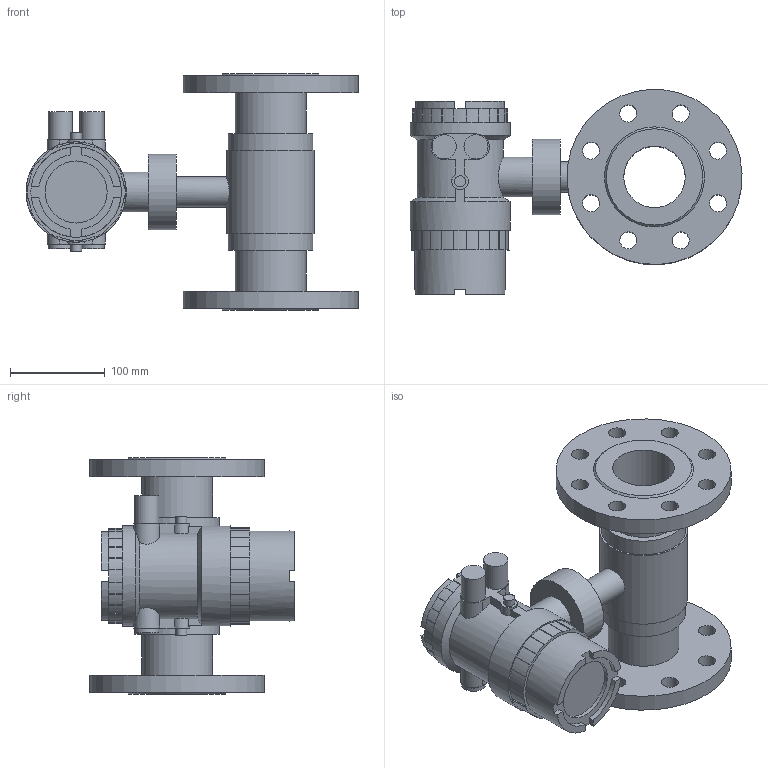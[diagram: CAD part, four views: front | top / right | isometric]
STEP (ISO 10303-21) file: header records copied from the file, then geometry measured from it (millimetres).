
FILE_DESCRIPTION( (''), '2;1');
FILE_NAME( 'QMKC_DN65.step', '2024-12-10T10:37:45+08:00', (''), (''), '', '', '');
FILE_SCHEMA (('AUTOMOTIVE_DESIGN { 1 0 10303 214 3 1 1 1 }'));
Length unit declared in the file: millimetre
Products named in the file (1): QMKC DN65
Bounding box: 350.66 x 216.41 x 250 mm (x, y, z)
Volume: 3063977.7 mm3; surface area: 354285.4 mm2
Topology: 1 solids, 1 shells, 223 faces, 594 edges, 398 vertices
Faces by surface type: plane 112, cylinder 105, cone 6
Full cylindrical faces by diameter (mm): 11.6 x2, 18 x16, 25.5 x4, 32 x1, 42 x1, 65 x1, 65.5 x1, 75 x2, 80 x1, 89 x2, 93 x1, 95.5 x1, 105.9 x2, 185 x2
Entity records: 6936 total; most frequent: CARTESIAN_POINT 1320, DIRECTION 1188, ORIENTED_EDGE 1086, EDGE_CURVE 543, AXIS2_PLACEMENT_3D 445, VERTEX_POINT 387, EDGE_LOOP 322, LINE 298
